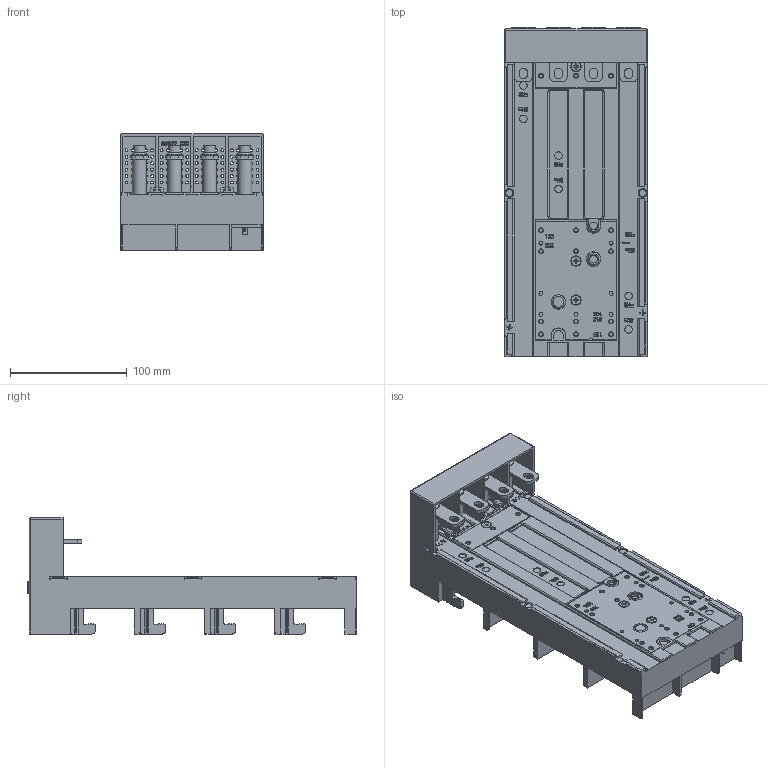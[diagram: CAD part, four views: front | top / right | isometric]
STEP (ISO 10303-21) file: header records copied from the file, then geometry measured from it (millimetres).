
FILE_DESCRIPTION (( 'STEP AP203' ), '1' );
FILE_NAME ('55024.STEP', '2021-08-24T08:31:01', ( '' ), ( '' ), 'SwSTEP 2.0', 'SolidWorks 2017', '' );
FILE_SCHEMA (( 'CONFIG_CONTROL_DESIGN' ));
Products named in the file (2): 55024
Bounding box: 122 x 281.5 x 99.2 mm (x, y, z)
Volume: 1024753.8 mm3; surface area: 223167.3 mm2
Topology: 5 solids, 17 shells, 3435 faces, 9895 edges, 6461 vertices
Faces by surface type: plane 2499, cylinder 586, bspline 280, cone 42, torus 26, sphere 2
Full cylindrical faces by diameter (mm): 2.5 x136, 3.2 x15, 3.3 x7, 4 x3, 4.5 x3, 5 x2, 6 x20, 6.4 x4, 6.5 x12, 6.8 x4, 8 x7, 8.5 x4, 9 x4, 10 x4, 10.3 x4, 12 x6, 12.5 x2, 13 x4, 14 x4
Entity records: 149504 total; most frequent: CARTESIAN_POINT 63081, ORIENTED_EDGE 18772, DIRECTION 16090, EDGE_CURVE 9386, VECTOR 6854, LINE 6854, VERTEX_POINT 6301, AXIS2_PLACEMENT_3D 4618
